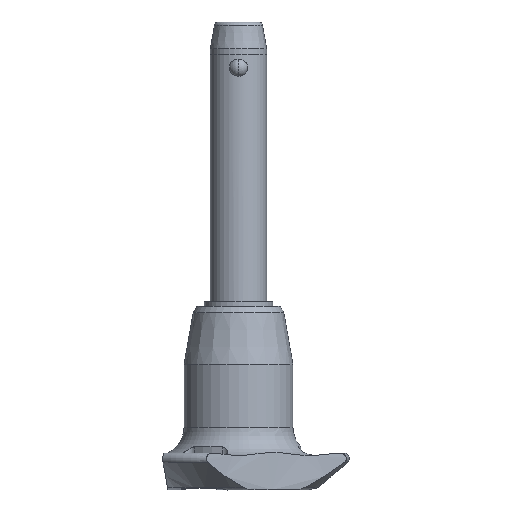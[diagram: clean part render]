
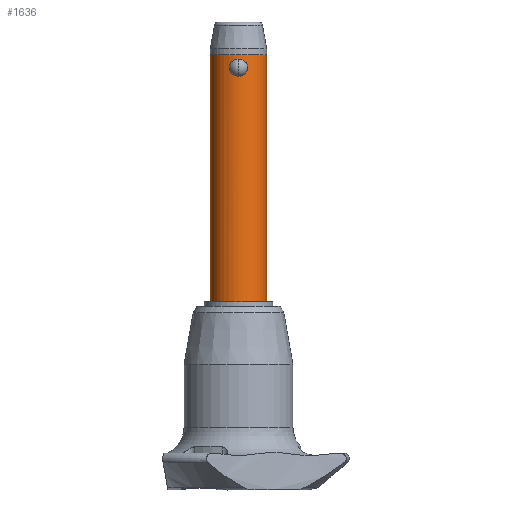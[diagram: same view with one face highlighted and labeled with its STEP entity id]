
A CAD part, front view. The second image highlights one B-rep face of the part: STEP entity #1636.
In plain terms, the highlighted cylindrical face has radius 5 mm (diameter 10 mm), a partial arc.
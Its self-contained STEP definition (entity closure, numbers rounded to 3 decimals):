
#48 = VERTEX_POINT ( 'NONE', #495 ) ;
#86 = CARTESIAN_POINT ( 'NONE',  ( 1.604, -4.736, 1.308 ) ) ;
#164 = CARTESIAN_POINT ( 'NONE',  ( -5., 0., -40. ) ) ;
#205 = B_SPLINE_CURVE_WITH_KNOTS ( 'NONE', 3,
 ( #2018, #273, #1562, #2203, #659, #1595, #2638, #672, #2840, #2033, #722, #1992, #226, #908, #259, #1153, #1361, #2004, #895, #1375, #2626, #1549, #1776, #1764, #2423, #2455 ),
 .UNSPECIFIED., .F., .F.,
 ( 4, 2, 2, 2, 2, 2, 2, 2, 2, 2, 2, 2, 4 ),
 ( 0., 0.001, 0.001, 0.001, 0.002, 0.002, 0.002, 0.003, 0.003, 0.004, 0.004, 0.004, 0.005 ),
 .UNSPECIFIED. ) ;
#226 = CARTESIAN_POINT ( 'NONE',  ( -1.604, -4.736, 1.724 ) ) ;
#259 = CARTESIAN_POINT ( 'NONE',  ( -1.594, -4.739, 1.312 ) ) ;
#270 = CARTESIAN_POINT ( 'NONE',  ( 0.7, -4.952, 2.888 ) ) ;
#273 = CARTESIAN_POINT ( 'NONE',  ( -0.208, -5., 3.033 ) ) ;
#276 = CARTESIAN_POINT ( 'NONE',  ( 0., 0., -40. ) ) ;
#288 = CARTESIAN_POINT ( 'NONE',  ( 1.395, -4.802, 2.301 ) ) ;
#317 = CARTESIAN_POINT ( 'NONE',  ( 1.384, -4.805, 0.735 ) ) ;
#465 = CIRCLE ( 'NONE', #1157, 5. ) ;
#478 = CARTESIAN_POINT ( 'NONE',  ( 0., 0., -40. ) ) ;
#489 = CARTESIAN_POINT ( 'NONE',  ( 1.56, -4.751, 1.103 ) ) ;
#490 = EDGE_CURVE ( 'NONE', #1461, #1610, #2167, .T. ) ;
#492 = EDGE_LOOP ( 'NONE', ( #1349, #2049, #980, #1667 ) ) ;
#495 = CARTESIAN_POINT ( 'NONE',  ( -5., 0., 3.84 ) ) ;
#504 = CARTESIAN_POINT ( 'NONE',  ( 1.047, -4.89, 0.356 ) ) ;
#562 = CARTESIAN_POINT ( 'NONE',  ( 0., 0., 3.84 ) ) ;
#570 = VECTOR ( 'NONE', #2579, 1000. ) ;
#621 = LINE ( 'NONE', #164, #649 ) ;
#636 = VERTEX_POINT ( 'NONE', #1652 ) ;
#649 = VECTOR ( 'NONE', #2815, 1000. ) ;
#659 = CARTESIAN_POINT ( 'NONE',  ( -0.791, -4.938, 2.844 ) ) ;
#672 = CARTESIAN_POINT ( 'NONE',  ( -1.197, -4.855, 2.539 ) ) ;
#684 = CARTESIAN_POINT ( 'NONE',  ( 1.604, -4.736, 1.619 ) ) ;
#711 = CYLINDRICAL_SURFACE ( 'NONE', #2617, 5. ) ;
#722 = CARTESIAN_POINT ( 'NONE',  ( -1.435, -4.79, 2.209 ) ) ;
#752 = CARTESIAN_POINT ( 'NONE',  ( 0.412, -4.987, 0.037 ) ) ;
#895 = CARTESIAN_POINT ( 'NONE',  ( -1.272, -4.838, 0.564 ) ) ;
#908 = CARTESIAN_POINT ( 'NONE',  ( -1.604, -4.736, 1.416 ) ) ;
#922 = VERTEX_POINT ( 'NONE', #1191 ) ;
#937 = AXIS2_PLACEMENT_3D ( 'NONE', #562, #1681, #1232 ) ;
#939 = CARTESIAN_POINT ( 'NONE',  ( 0.699, -4.952, 0.144 ) ) ;
#954 = CARTESIAN_POINT ( 'NONE',  ( 0.792, -4.938, 0.19 ) ) ;
#956 = ORIENTED_EDGE ( 'NONE', *, *, #1607, .F. ) ;
#970 = CARTESIAN_POINT ( 'NONE',  ( 0.966, -4.907, 0.296 ) ) ;
#980 = ORIENTED_EDGE ( 'NONE', *, *, #490, .T. ) ;
#987 = CARTESIAN_POINT ( 'NONE',  ( 1.551, -4.753, 1.922 ) ) ;
#1124 = EDGE_CURVE ( 'NONE', #1461, #636, #465, .T. ) ;
#1153 = CARTESIAN_POINT ( 'NONE',  ( -1.551, -4.753, 1.11 ) ) ;
#1157 = AXIS2_PLACEMENT_3D ( 'NONE', #478, #2400, #2599 ) ;
#1185 = CARTESIAN_POINT ( 'NONE',  ( 0., -5., 0. ) ) ;
#1191 = CARTESIAN_POINT ( 'NONE',  ( 0., -5., 3.033 ) ) ;
#1199 = CARTESIAN_POINT ( 'NONE',  ( 0., -5., 3.033 ) ) ;
#1203 = B_SPLINE_CURVE_WITH_KNOTS ( 'NONE', 3,
 ( #1185, #2453, #752, #939, #954, #970, #504, #2060, #1593, #317, #1622, #489, #86, #684, #1386, #987, #2652, #288, #1359, #2479, #1821, #2250, #270, #2437, #1644, #1199 ),
 .UNSPECIFIED., .F., .F.,
 ( 4, 2, 2, 2, 2, 2, 2, 2, 2, 2, 2, 2, 4 ),
 ( 0.005, 0.006, 0.006, 0.006, 0.006, 0.007, 0.007, 0.008, 0.008, 0.009, 0.009, 0.009, 0.01 ),
 .UNSPECIFIED. ) ;
#1232 = DIRECTION ( 'NONE',  ( 1., 0., 0. ) ) ;
#1293 = FACE_OUTER_BOUND ( 'NONE', #492, .T. ) ;
#1348 = DIRECTION ( 'NONE',  ( 0., 0., 1. ) ) ;
#1349 = ORIENTED_EDGE ( 'NONE', *, *, #1973, .F. ) ;
#1359 = CARTESIAN_POINT ( 'NONE',  ( 1.272, -4.838, 2.47 ) ) ;
#1361 = CARTESIAN_POINT ( 'NONE',  ( -1.519, -4.764, 1.013 ) ) ;
#1375 = CARTESIAN_POINT ( 'NONE',  ( -1.047, -4.89, 0.357 ) ) ;
#1386 = CARTESIAN_POINT ( 'NONE',  ( 1.594, -4.739, 1.721 ) ) ;
#1461 = VERTEX_POINT ( 'NONE', #1561 ) ;
#1515 = CARTESIAN_POINT ( 'NONE',  ( 0., -5., 0. ) ) ;
#1549 = CARTESIAN_POINT ( 'NONE',  ( -0.792, -4.938, 0.19 ) ) ;
#1561 = CARTESIAN_POINT ( 'NONE',  ( 5., 0., -40. ) ) ;
#1562 = CARTESIAN_POINT ( 'NONE',  ( -0.412, -4.987, 2.997 ) ) ;
#1583 = FACE_BOUND ( 'NONE', #1599, .T. ) ;
#1593 = CARTESIAN_POINT ( 'NONE',  ( 1.265, -4.838, 0.57 ) ) ;
#1595 = CARTESIAN_POINT ( 'NONE',  ( -0.965, -4.907, 2.738 ) ) ;
#1599 = EDGE_LOOP ( 'NONE', ( #2494, #956 ) ) ;
#1607 = EDGE_CURVE ( 'NONE', #1646, #922, #1203, .T. ) ;
#1610 = VERTEX_POINT ( 'NONE', #2714 ) ;
#1622 = CARTESIAN_POINT ( 'NONE',  ( 1.434, -4.79, 0.822 ) ) ;
#1636 = ADVANCED_FACE ( 'NONE', ( #1293, #1583 ), #711, .T. ) ;
#1644 = CARTESIAN_POINT ( 'NONE',  ( 0.208, -5., 3.033 ) ) ;
#1646 = VERTEX_POINT ( 'NONE', #1515 ) ;
#1652 = CARTESIAN_POINT ( 'NONE',  ( -5., 0., -40. ) ) ;
#1667 = ORIENTED_EDGE ( 'NONE', *, *, #2594, .F. ) ;
#1681 = DIRECTION ( 'NONE',  ( 0., 0., 1. ) ) ;
#1728 = CARTESIAN_POINT ( 'NONE',  ( 5., 0., -40. ) ) ;
#1764 = CARTESIAN_POINT ( 'NONE',  ( -0.412, -4.987, 0.037 ) ) ;
#1776 = CARTESIAN_POINT ( 'NONE',  ( -0.699, -4.952, 0.145 ) ) ;
#1821 = CARTESIAN_POINT ( 'NONE',  ( 0.966, -4.907, 2.738 ) ) ;
#1973 = EDGE_CURVE ( 'NONE', #636, #48, #621, .T. ) ;
#1992 = CARTESIAN_POINT ( 'NONE',  ( -1.56, -4.751, 1.931 ) ) ;
#2004 = CARTESIAN_POINT ( 'NONE',  ( -1.394, -4.802, 0.731 ) ) ;
#2016 = EDGE_CURVE ( 'NONE', #922, #1646, #205, .T. ) ;
#2018 = CARTESIAN_POINT ( 'NONE',  ( 0., -5., 3.033 ) ) ;
#2033 = CARTESIAN_POINT ( 'NONE',  ( -1.383, -4.805, 2.299 ) ) ;
#2049 = ORIENTED_EDGE ( 'NONE', *, *, #1124, .F. ) ;
#2060 = CARTESIAN_POINT ( 'NONE',  ( 1.196, -4.855, 0.493 ) ) ;
#2167 = LINE ( 'NONE', #1728, #570 ) ;
#2203 = CARTESIAN_POINT ( 'NONE',  ( -0.7, -4.952, 2.888 ) ) ;
#2219 = CIRCLE ( 'NONE', #937, 5. ) ;
#2250 = CARTESIAN_POINT ( 'NONE',  ( 0.792, -4.938, 2.844 ) ) ;
#2400 = DIRECTION ( 'NONE',  ( 0., 0., -1. ) ) ;
#2423 = CARTESIAN_POINT ( 'NONE',  ( -0.205, -5., 0. ) ) ;
#2437 = CARTESIAN_POINT ( 'NONE',  ( 0.412, -4.987, 2.996 ) ) ;
#2445 = DIRECTION ( 'NONE',  ( 1., 0., 0. ) ) ;
#2453 = CARTESIAN_POINT ( 'NONE',  ( 0.205, -5., 0. ) ) ;
#2455 = CARTESIAN_POINT ( 'NONE',  ( 0., -5., 0. ) ) ;
#2479 = CARTESIAN_POINT ( 'NONE',  ( 1.048, -4.889, 2.676 ) ) ;
#2494 = ORIENTED_EDGE ( 'NONE', *, *, #2016, .F. ) ;
#2579 = DIRECTION ( 'NONE',  ( 0., 0., 1. ) ) ;
#2594 = EDGE_CURVE ( 'NONE', #48, #1610, #2219, .T. ) ;
#2599 = DIRECTION ( 'NONE',  ( 1., 0., 0. ) ) ;
#2617 = AXIS2_PLACEMENT_3D ( 'NONE', #276, #1348, #2445 ) ;
#2626 = CARTESIAN_POINT ( 'NONE',  ( -0.966, -4.907, 0.296 ) ) ;
#2638 = CARTESIAN_POINT ( 'NONE',  ( -1.047, -4.89, 2.676 ) ) ;
#2652 = CARTESIAN_POINT ( 'NONE',  ( 1.519, -4.764, 2.021 ) ) ;
#2714 = CARTESIAN_POINT ( 'NONE',  ( 5., 0., 3.84 ) ) ;
#2815 = DIRECTION ( 'NONE',  ( 0., 0., 1. ) ) ;
#2840 = CARTESIAN_POINT ( 'NONE',  ( -1.264, -4.838, 2.464 ) ) ;
